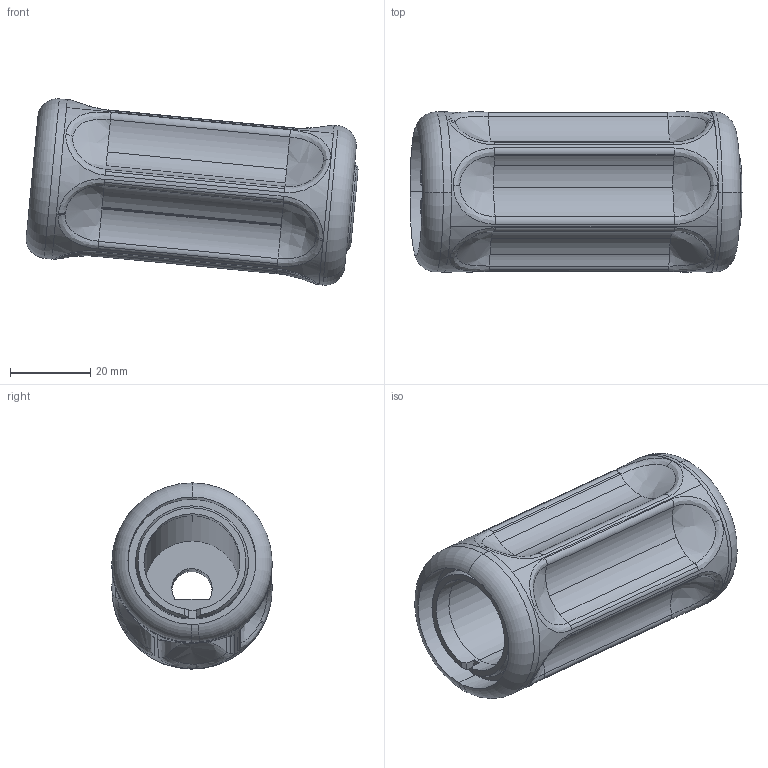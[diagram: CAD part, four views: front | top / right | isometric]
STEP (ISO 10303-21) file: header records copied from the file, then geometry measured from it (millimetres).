
FILE_DESCRIPTION(('CATIA V5 STEP Exchange'),'2;1');
FILE_NAME('F:\福田A6\14-新扶手\3D\新建文件夹\SHT0017845-20250110.stp','2025-01-10T07:16:07+00:00',('none'),('none'),'CATIA Version 5 Release 20 GA (IN-10)','CATIA V5 STEP AP203','none');
FILE_SCHEMA(('CONFIG_CONTROL_DESIGN'));
Length unit declared in the file: millimetre
Products named in the file (1): SHT0017845
Bounding box: 82.96 x 40 x 46.54 mm (x, y, z)
Volume: 41130.7 mm3; surface area: 18925 mm2
Topology: 1 solids, 1 shells, 143 faces, 441 edges, 306 vertices
Faces by surface type: bspline 89, cylinder 22, plane 14, torus 14, cone 4
Entity records: 10708 total; most frequent: CARTESIAN_POINT 7747, ORIENTED_EDGE 882, EDGE_CURVE 441, VERTEX_POINT 306, B_SPLINE_CURVE_WITH_KNOTS 266, DIRECTION 211, EDGE_LOOP 151, ADVANCED_FACE 143
